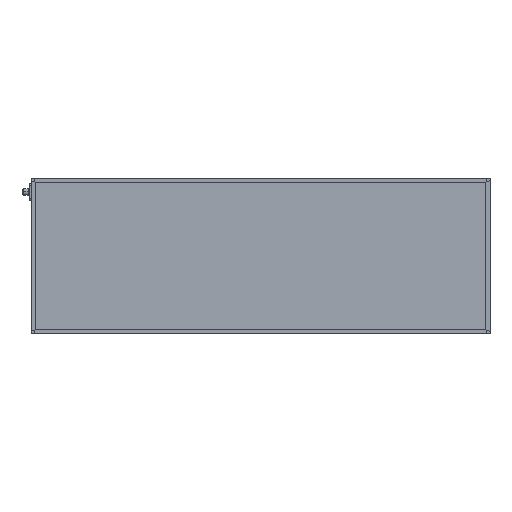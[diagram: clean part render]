
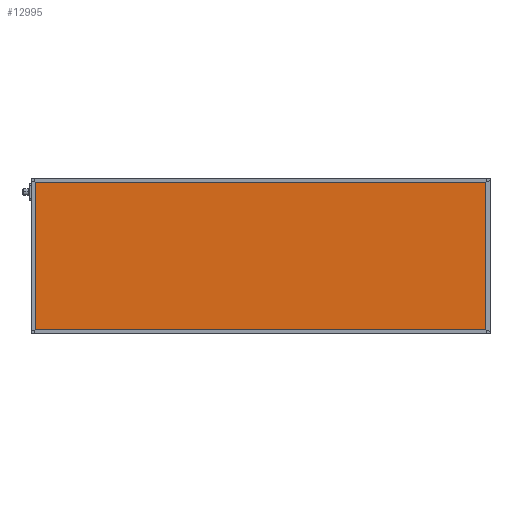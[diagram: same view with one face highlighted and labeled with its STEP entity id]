
A CAD part, top view. The second image highlights one B-rep face of the part: STEP entity #12995.
In plain terms, the highlighted planar face has unit normal (0, 0, 1).
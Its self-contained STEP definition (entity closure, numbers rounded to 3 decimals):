
#498 = DIRECTION ( 'NONE',  ( 0., -1., 0. ) ) ;
#1032 = EDGE_CURVE ( 'NONE', #14976, #1348, #1707, .T. ) ;
#1348 = VERTEX_POINT ( 'NONE', #5668 ) ;
#1707 = LINE ( 'NONE', #1879, #9746 ) ;
#1879 = CARTESIAN_POINT ( 'NONE',  ( 4., 0., 41.85 ) ) ;
#1935 = CARTESIAN_POINT ( 'NONE',  ( 0., 0., 41.85 ) ) ;
#1962 = ORIENTED_EDGE ( 'NONE', *, *, #12464, .T. ) ;
#2028 = VERTEX_POINT ( 'NONE', #15297 ) ;
#2740 = EDGE_CURVE ( 'NONE', #1348, #2028, #14618, .T. ) ;
#3061 = FACE_OUTER_BOUND ( 'NONE', #17013, .T. ) ;
#3144 = PLANE ( 'NONE',  #8277 ) ;
#3572 = LINE ( 'NONE', #8895, #4305 ) ;
#4305 = VECTOR ( 'NONE', #14210, 1000. ) ;
#5309 = VERTEX_POINT ( 'NONE', #7270 ) ;
#5668 = CARTESIAN_POINT ( 'NONE',  ( 4., 4., 41.85 ) ) ;
#5915 = ORIENTED_EDGE ( 'NONE', *, *, #7936, .T. ) ;
#5967 = ORIENTED_EDGE ( 'NONE', *, *, #1032, .T. ) ;
#6331 = CARTESIAN_POINT ( 'NONE',  ( 0., 4., 41.85 ) ) ;
#6499 = DIRECTION ( 'NONE',  ( 1., 0., 0. ) ) ;
#7167 = DIRECTION ( 'NONE',  ( -1., 0., 0. ) ) ;
#7270 = CARTESIAN_POINT ( 'NONE',  ( 896., 296., 41.85 ) ) ;
#7690 = VECTOR ( 'NONE', #12516, 1000. ) ;
#7936 = EDGE_CURVE ( 'NONE', #5309, #14976, #3572, .T. ) ;
#8277 = AXIS2_PLACEMENT_3D ( 'NONE', #1935, #12218, #7167 ) ;
#8895 = CARTESIAN_POINT ( 'NONE',  ( 0., 296., 41.85 ) ) ;
#9746 = VECTOR ( 'NONE', #498, 1000. ) ;
#9821 = CARTESIAN_POINT ( 'NONE',  ( 896., 0., 41.85 ) ) ;
#12218 = DIRECTION ( 'NONE',  ( 0., 0., -1. ) ) ;
#12464 = EDGE_CURVE ( 'NONE', #2028, #5309, #16451, .T. ) ;
#12516 = DIRECTION ( 'NONE',  ( 0., 1., 0. ) ) ;
#12995 = ADVANCED_FACE ( 'NONE', ( #3061 ), #3144, .F. ) ;
#13338 = ORIENTED_EDGE ( 'NONE', *, *, #2740, .T. ) ;
#14210 = DIRECTION ( 'NONE',  ( -1., 0., 0. ) ) ;
#14618 = LINE ( 'NONE', #6331, #14781 ) ;
#14781 = VECTOR ( 'NONE', #6499, 1000. ) ;
#14976 = VERTEX_POINT ( 'NONE', #15842 ) ;
#15297 = CARTESIAN_POINT ( 'NONE',  ( 896., 4., 41.85 ) ) ;
#15842 = CARTESIAN_POINT ( 'NONE',  ( 4., 296., 41.85 ) ) ;
#16451 = LINE ( 'NONE', #9821, #7690 ) ;
#17013 = EDGE_LOOP ( 'NONE', ( #1962, #5915, #5967, #13338 ) ) ;
